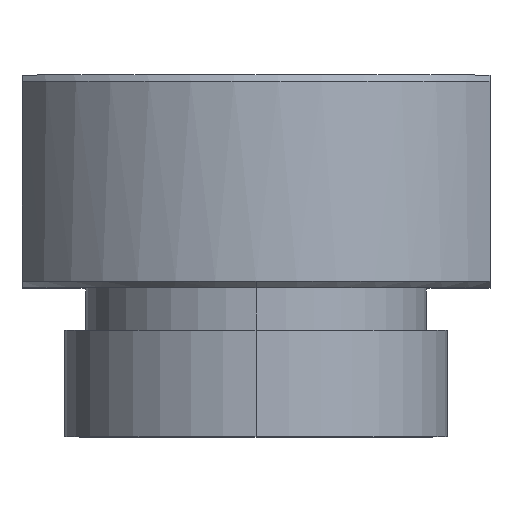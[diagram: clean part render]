
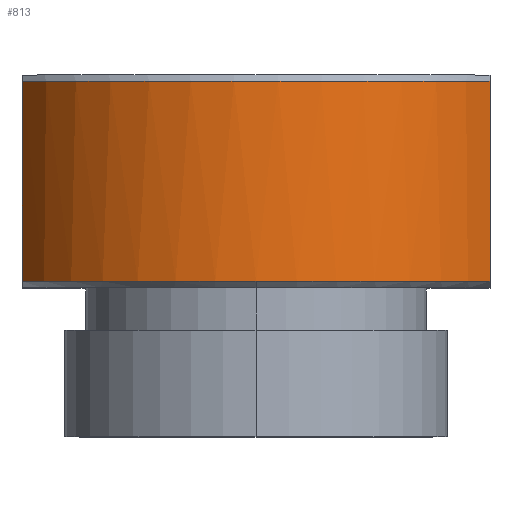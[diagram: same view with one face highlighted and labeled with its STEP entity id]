
A CAD part, top view. The second image highlights one B-rep face of the part: STEP entity #813.
In plain terms, the highlighted cylindrical face has radius 12.5 mm (diameter 25 mm), a partial arc.
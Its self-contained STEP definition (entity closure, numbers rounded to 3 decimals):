
#8 = FACE_OUTER_BOUND ( 'NONE', #515, .T. ) ;
#18 = DIRECTION ( 'NONE',  ( 0., -1., 0. ) ) ;
#145 = CARTESIAN_POINT ( 'NONE',  ( 11., 9.7, 5.937 ) ) ;
#162 = DIRECTION ( 'NONE',  ( 0., 0., -1. ) ) ;
#228 = CYLINDRICAL_SURFACE ( 'NONE', #695, 12.5 ) ;
#229 = DIRECTION ( 'NONE',  ( 0., 1., 0. ) ) ;
#238 = CARTESIAN_POINT ( 'NONE',  ( 0., 10., 0. ) ) ;
#274 = AXIS2_PLACEMENT_3D ( 'NONE', #844, #926, #562 ) ;
#315 = CARTESIAN_POINT ( 'NONE',  ( 0., 0.3, 0. ) ) ;
#317 = VECTOR ( 'NONE', #942, 1000. ) ;
#344 = LINE ( 'NONE', #425, #317 ) ;
#347 = CIRCLE ( 'NONE', #751, 12.5 ) ;
#377 = CARTESIAN_POINT ( 'NONE',  ( 11., 0.3, 5.937 ) ) ;
#378 = ORIENTED_EDGE ( 'NONE', *, *, #863, .T. ) ;
#385 = CARTESIAN_POINT ( 'NONE',  ( 0., 0.3, 12.5 ) ) ;
#388 = CARTESIAN_POINT ( 'NONE',  ( -11., 10., 5.937 ) ) ;
#390 = CIRCLE ( 'NONE', #961, 12.5 ) ;
#398 = DIRECTION ( 'NONE',  ( 0., -1., 0. ) ) ;
#425 = CARTESIAN_POINT ( 'NONE',  ( 11., 10., 5.937 ) ) ;
#464 = DIRECTION ( 'NONE',  ( 0., 0., 1. ) ) ;
#480 = CARTESIAN_POINT ( 'NONE',  ( 0., 9.7, 0. ) ) ;
#491 = VERTEX_POINT ( 'NONE', #576 ) ;
#515 = EDGE_LOOP ( 'NONE', ( #739, #378, #962, #888, #692 ) ) ;
#543 = DIRECTION ( 'NONE',  ( 0., 0., 1. ) ) ;
#550 = DIRECTION ( 'NONE',  ( 0., 1., 0. ) ) ;
#562 = DIRECTION ( 'NONE',  ( 0., 0., 1. ) ) ;
#576 = CARTESIAN_POINT ( 'NONE',  ( -11., 9.7, 5.937 ) ) ;
#593 = EDGE_CURVE ( 'NONE', #729, #712, #344, .T. ) ;
#644 = EDGE_CURVE ( 'NONE', #831, #491, #946, .T. ) ;
#650 = VECTOR ( 'NONE', #229, 1000. ) ;
#692 = ORIENTED_EDGE ( 'NONE', *, *, #769, .T. ) ;
#695 = AXIS2_PLACEMENT_3D ( 'NONE', #238, #398, #162 ) ;
#712 = VERTEX_POINT ( 'NONE', #377 ) ;
#729 = VERTEX_POINT ( 'NONE', #145 ) ;
#739 = ORIENTED_EDGE ( 'NONE', *, *, #644, .F. ) ;
#745 = VERTEX_POINT ( 'NONE', #385 ) ;
#751 = AXIS2_PLACEMENT_3D ( 'NONE', #315, #550, #543 ) ;
#769 = EDGE_CURVE ( 'NONE', #729, #491, #390, .T. ) ;
#774 = CARTESIAN_POINT ( 'NONE',  ( -11., 0.3, 5.937 ) ) ;
#808 = CIRCLE ( 'NONE', #274, 12.5 ) ;
#813 = ADVANCED_FACE ( 'NONE', ( #8 ), #228, .T. ) ;
#831 = VERTEX_POINT ( 'NONE', #774 ) ;
#844 = CARTESIAN_POINT ( 'NONE',  ( 0., 0.3, 0. ) ) ;
#863 = EDGE_CURVE ( 'NONE', #831, #745, #347, .T. ) ;
#882 = EDGE_CURVE ( 'NONE', #745, #712, #808, .T. ) ;
#888 = ORIENTED_EDGE ( 'NONE', *, *, #593, .F. ) ;
#926 = DIRECTION ( 'NONE',  ( 0., 1., 0. ) ) ;
#942 = DIRECTION ( 'NONE',  ( 0., -1., 0. ) ) ;
#946 = LINE ( 'NONE', #388, #650 ) ;
#961 = AXIS2_PLACEMENT_3D ( 'NONE', #480, #18, #464 ) ;
#962 = ORIENTED_EDGE ( 'NONE', *, *, #882, .T. ) ;
